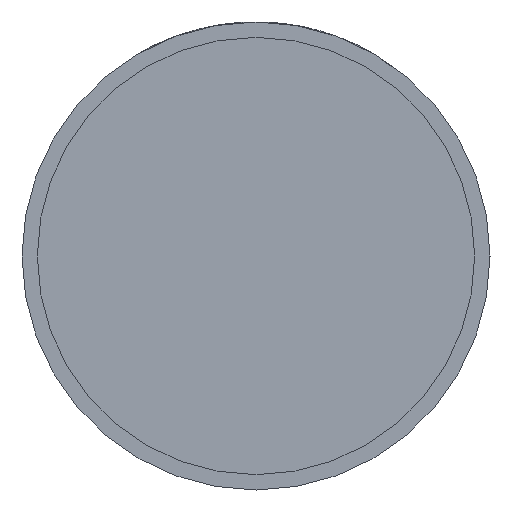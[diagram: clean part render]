
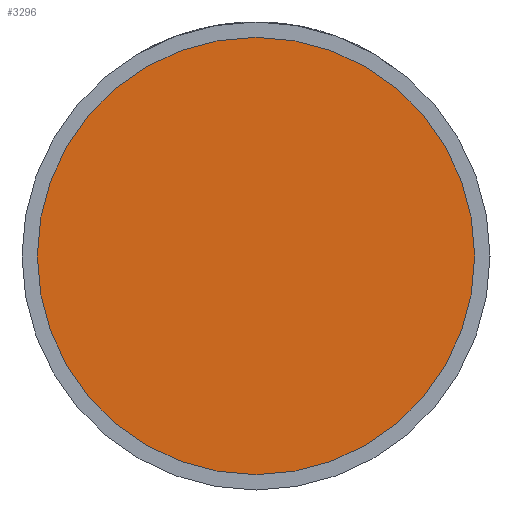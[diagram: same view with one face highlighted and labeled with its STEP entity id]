
A CAD part, front view. The second image highlights one B-rep face of the part: STEP entity #3296.
In plain terms, the highlighted planar face has unit normal (0, -1, 0).
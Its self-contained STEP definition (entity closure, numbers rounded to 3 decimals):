
#205 = AXIS2_PLACEMENT_3D ( 'NONE', #1310, #1223, #1250 ) ;
#691 = DIRECTION ( 'NONE',  ( 1., 0., 0. ) ) ;
#820 = CIRCLE ( 'NONE', #4071, 28.5 ) ;
#955 = EDGE_LOOP ( 'NONE', ( #1603, #2440 ) ) ;
#1223 = DIRECTION ( 'NONE',  ( 0., -1., 0. ) ) ;
#1250 = DIRECTION ( 'NONE',  ( 1., 0., 0. ) ) ;
#1310 = CARTESIAN_POINT ( 'NONE',  ( 28.5, -17.5, 0. ) ) ;
#1603 = ORIENTED_EDGE ( 'NONE', *, *, #2463, .T. ) ;
#2094 = CARTESIAN_POINT ( 'NONE',  ( 28.5, -17.5, 0. ) ) ;
#2163 = CARTESIAN_POINT ( 'NONE',  ( -28.5, -17.5, 0. ) ) ;
#2166 = CARTESIAN_POINT ( 'NONE',  ( 0., -17.5, 0. ) ) ;
#2230 = FACE_OUTER_BOUND ( 'NONE', #955, .T. ) ;
#2440 = ORIENTED_EDGE ( 'NONE', *, *, #2548, .T. ) ;
#2463 = EDGE_CURVE ( 'NONE', #2598, #4107, #820, .T. ) ;
#2548 = EDGE_CURVE ( 'NONE', #4107, #2598, #4137, .T. ) ;
#2553 = PLANE ( 'NONE',  #205 ) ;
#2598 = VERTEX_POINT ( 'NONE', #2094 ) ;
#2812 = DIRECTION ( 'NONE',  ( 0., -1., 0. ) ) ;
#2829 = AXIS2_PLACEMENT_3D ( 'NONE', #2166, #2812, #3741 ) ;
#3013 = CARTESIAN_POINT ( 'NONE',  ( 0., -17.5, 0. ) ) ;
#3296 = ADVANCED_FACE ( 'NONE', ( #2230 ), #2553, .T. ) ;
#3631 = DIRECTION ( 'NONE',  ( 0., -1., 0. ) ) ;
#3741 = DIRECTION ( 'NONE',  ( 1., 0., 0. ) ) ;
#4071 = AXIS2_PLACEMENT_3D ( 'NONE', #3013, #3631, #691 ) ;
#4107 = VERTEX_POINT ( 'NONE', #2163 ) ;
#4137 = CIRCLE ( 'NONE', #2829, 28.5 ) ;
